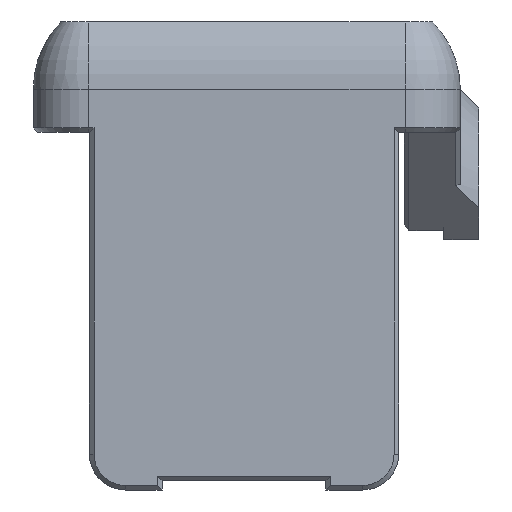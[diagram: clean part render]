
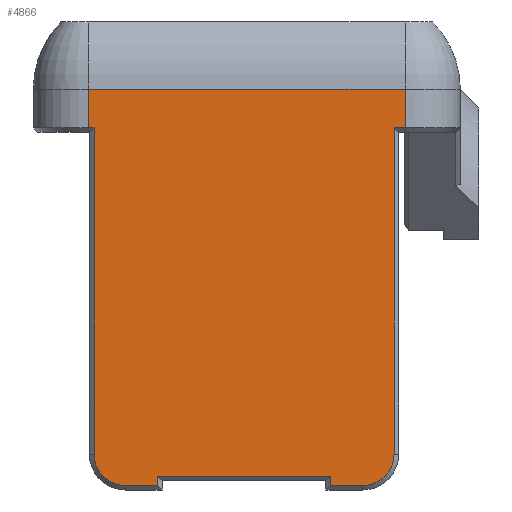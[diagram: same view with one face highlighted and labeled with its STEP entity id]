
A CAD part, left-side view. The second image highlights one B-rep face of the part: STEP entity #4866.
In plain terms, the highlighted planar face has unit normal (-1, 0, 0).
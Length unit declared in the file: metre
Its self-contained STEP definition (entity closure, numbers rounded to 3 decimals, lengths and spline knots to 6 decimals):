
#284=CIRCLE('',#5271,0.0017);
#285=CIRCLE('',#5272,0.0017);
#737=ORIENTED_EDGE('',*,*,#2161,.T.);
#738=ORIENTED_EDGE('',*,*,#2183,.T.);
#739=ORIENTED_EDGE('',*,*,#2184,.T.);
#740=ORIENTED_EDGE('',*,*,#2185,.T.);
#741=ORIENTED_EDGE('',*,*,#2186,.T.);
#742=ORIENTED_EDGE('',*,*,#2187,.T.);
#743=ORIENTED_EDGE('',*,*,#2188,.T.);
#744=ORIENTED_EDGE('',*,*,#2189,.T.);
#745=ORIENTED_EDGE('',*,*,#2190,.T.);
#746=ORIENTED_EDGE('',*,*,#2191,.T.);
#747=ORIENTED_EDGE('',*,*,#2192,.T.);
#748=ORIENTED_EDGE('',*,*,#2193,.T.);
#749=ORIENTED_EDGE('',*,*,#2139,.F.);
#750=ORIENTED_EDGE('',*,*,#2194,.T.);
#2139=EDGE_CURVE('',#2857,#2858,#3234,.T.);
#2161=EDGE_CURVE('',#2874,#2873,#3249,.T.);
#2183=EDGE_CURVE('',#2873,#2889,#3268,.T.);
#2184=EDGE_CURVE('',#2889,#2890,#3269,.T.);
#2185=EDGE_CURVE('',#2890,#2891,#284,.F.);
#2186=EDGE_CURVE('',#2891,#2892,#3270,.T.);
#2187=EDGE_CURVE('',#2892,#2893,#3271,.T.);
#2188=EDGE_CURVE('',#2893,#2894,#3272,.T.);
#2189=EDGE_CURVE('',#2894,#2895,#3273,.T.);
#2190=EDGE_CURVE('',#2895,#2896,#3274,.T.);
#2191=EDGE_CURVE('',#2896,#2897,#285,.F.);
#2192=EDGE_CURVE('',#2897,#2898,#3275,.T.);
#2193=EDGE_CURVE('',#2898,#2858,#3276,.T.);
#2194=EDGE_CURVE('',#2857,#2874,#3277,.T.);
#2857=VERTEX_POINT('',#7676);
#2858=VERTEX_POINT('',#7677);
#2873=VERTEX_POINT('',#7719);
#2874=VERTEX_POINT('',#7721);
#2889=VERTEX_POINT('',#7763);
#2890=VERTEX_POINT('',#7765);
#2891=VERTEX_POINT('',#7767);
#2892=VERTEX_POINT('',#7769);
#2893=VERTEX_POINT('',#7771);
#2894=VERTEX_POINT('',#7773);
#2895=VERTEX_POINT('',#7775);
#2896=VERTEX_POINT('',#7777);
#2897=VERTEX_POINT('',#7779);
#2898=VERTEX_POINT('',#7781);
#3234=LINE('',#7675,#3762);
#3249=LINE('',#7720,#3777);
#3268=LINE('',#7762,#3796);
#3269=LINE('',#7764,#3797);
#3270=LINE('',#7768,#3798);
#3271=LINE('',#7770,#3799);
#3272=LINE('',#7772,#3800);
#3273=LINE('',#7774,#3801);
#3274=LINE('',#7776,#3802);
#3275=LINE('',#7780,#3803);
#3276=LINE('',#7782,#3804);
#3277=LINE('',#7783,#3805);
#3762=VECTOR('',#6043,1.);
#3777=VECTOR('',#6084,1.);
#3796=VECTOR('',#6119,1.);
#3797=VECTOR('',#6120,1.);
#3798=VECTOR('',#6123,1.);
#3799=VECTOR('',#6124,1.);
#3800=VECTOR('',#6125,1.);
#3801=VECTOR('',#6126,1.);
#3802=VECTOR('',#6127,1.);
#3803=VECTOR('',#6130,1.);
#3804=VECTOR('',#6131,1.);
#3805=VECTOR('',#6132,1.);
#4118=EDGE_LOOP('',(#737,#738,#739,#740,#741,#742,#743,#744,#745,#746,#747,
#748,#749,#750));
#4416=FACE_BOUND('',#4118,.T.);
#4699=PLANE('',#5270);
#4866=ADVANCED_FACE('',(#4416),#4699,.F.);
#5270=AXIS2_PLACEMENT_3D('',#7761,#6117,#6118);
#5271=AXIS2_PLACEMENT_3D('',#7766,#6121,#6122);
#5272=AXIS2_PLACEMENT_3D('',#7778,#6128,#6129);
#6043=DIRECTION('',(0.,0.,-1.));
#6084=DIRECTION('',(0.,0.,-1.));
#6117=DIRECTION('',(1.,0.,0.));
#6118=DIRECTION('',(0.,0.,-1.));
#6119=DIRECTION('',(0.,-1.,0.));
#6120=DIRECTION('',(0.,0.,-1.));
#6121=DIRECTION('',(1.,0.,0.));
#6122=DIRECTION('',(0.,0.,-1.));
#6123=DIRECTION('',(0.,-1.,0.));
#6124=DIRECTION('',(0.,0.,1.));
#6125=DIRECTION('',(0.,-1.,0.));
#6126=DIRECTION('',(0.,0.,-1.));
#6127=DIRECTION('',(0.,-1.,0.));
#6128=DIRECTION('',(1.,0.,0.));
#6129=DIRECTION('',(0.,0.,-1.));
#6130=DIRECTION('',(0.,0.,1.));
#6131=DIRECTION('',(0.,-1.,0.));
#6132=DIRECTION('',(0.,1.,0.));
#7675=CARTESIAN_POINT('',(-0.02,-0.0023,0.020252));
#7676=CARTESIAN_POINT('',(-0.02,-0.0023,0.017596));
#7677=CARTESIAN_POINT('',(-0.02,-0.0023,0.0155));
#7719=CARTESIAN_POINT('',(-0.02,0.0149,0.0155));
#7720=CARTESIAN_POINT('',(-0.02,0.0149,0.020252));
#7721=CARTESIAN_POINT('',(-0.02,0.0149,0.017596));
#7761=CARTESIAN_POINT('',(-0.02,0.004,0.02125));
#7762=CARTESIAN_POINT('',(-0.02,0.01485,0.0155));
#7763=CARTESIAN_POINT('',(-0.02,0.0146,0.0155));
#7764=CARTESIAN_POINT('',(-0.02,0.0146,-0.002223));
#7765=CARTESIAN_POINT('',(-0.02,0.0146,-0.002223));
#7766=CARTESIAN_POINT('',(-0.02,0.0129,-0.002223));
#7767=CARTESIAN_POINT('',(-0.02,0.0129,-0.003923));
#7768=CARTESIAN_POINT('',(-0.02,0.0109,-0.003923));
#7769=CARTESIAN_POINT('',(-0.02,0.01115,-0.003923));
#7770=CARTESIAN_POINT('',(-0.02,0.01115,-0.003673));
#7771=CARTESIAN_POINT('',(-0.02,0.01115,-0.003423));
#7772=CARTESIAN_POINT('',(-0.02,0.004,-0.003423));
#7773=CARTESIAN_POINT('',(-0.02,0.00175,-0.003423));
#7774=CARTESIAN_POINT('',(-0.02,0.00175,0.02125));
#7775=CARTESIAN_POINT('',(-0.02,0.00175,-0.003923));
#7776=CARTESIAN_POINT('',(-0.02,0.,-0.003923));
#7777=CARTESIAN_POINT('',(-0.02,0.,-0.003923));
#7778=CARTESIAN_POINT('',(-0.02,0.,-0.002223));
#7779=CARTESIAN_POINT('',(-0.02,-0.0017,-0.002223));
#7780=CARTESIAN_POINT('',(-0.02,-0.0017,0.01525));
#7781=CARTESIAN_POINT('',(-0.02,-0.0017,0.0155));
#7782=CARTESIAN_POINT('',(-0.02,-0.002,0.0155));
#7783=CARTESIAN_POINT('',(-0.02,0.01,0.017596));
